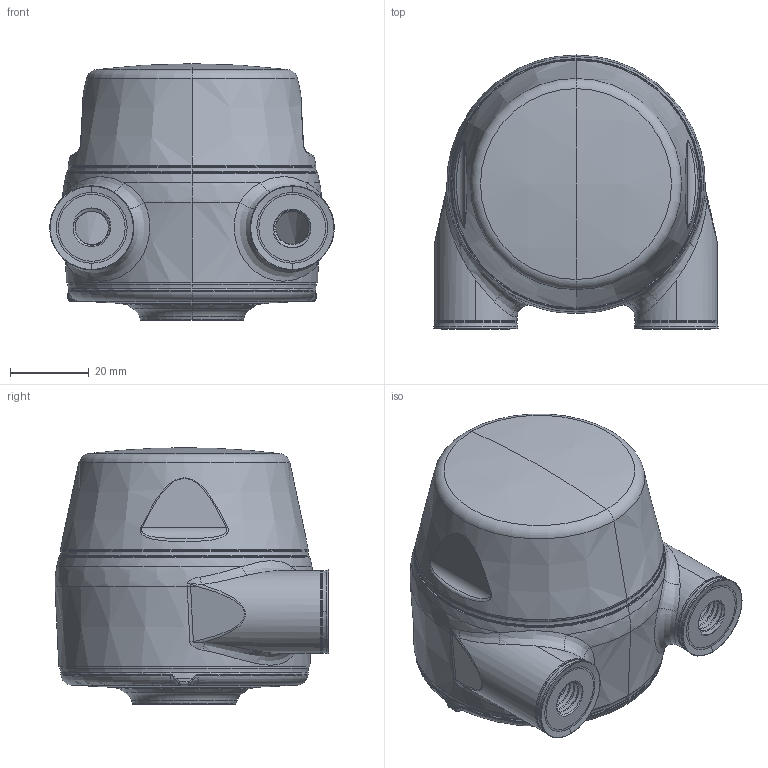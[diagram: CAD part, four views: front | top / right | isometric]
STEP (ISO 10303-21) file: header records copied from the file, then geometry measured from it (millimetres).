
FILE_DESCRIPTION (( 'STEP AP203' ), '1' );
FILE_NAME ('XBTBC52(Blue)-CSB2540(Front)-CL(Blue)-OS(Blue)_Shell.step', '2020-08-06T00:11:04', ( '' ), ( '' ), 'SwSTEP 2.0', 'SolidWorks 2019', '' );
FILE_SCHEMA (( 'CONFIG_CONTROL_DESIGN' ));
Length unit declared in the file: millimetre
Products named in the file (1): XBTBC52(Blue)-CSB2540(Front)-CL(Blue)-OS(Blue)_Shell
Bounding box: 72.4 x 69.69 x 65.25 mm (x, y, z)
Surface area: 28924 mm2 (no closed solid volume)
Topology: 0 solids, 16 shells, 244 faces, 796 edges, 558 vertices
Faces by surface type: cylinder 58, bspline 56, cone 55, torus 52, plane 17, sphere 6
Entity records: 17415 total; most frequent: CARTESIAN_POINT 10998, ORIENTED_EDGE 1292, DIRECTION 1265, EDGE_CURVE 796, VERTEX_POINT 558, AXIS2_PLACEMENT_3D 557, CIRCLE 368, EDGE_LOOP 260
